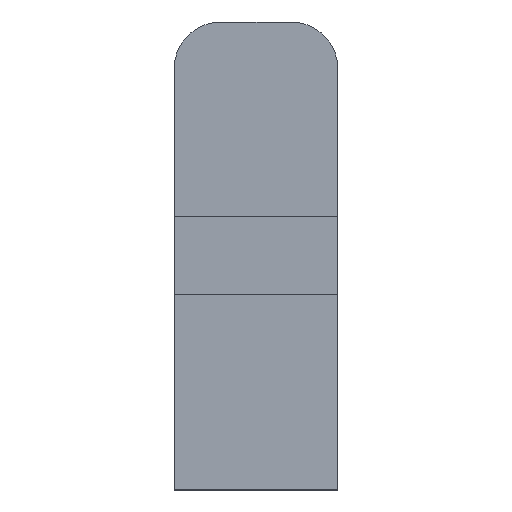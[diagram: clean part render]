
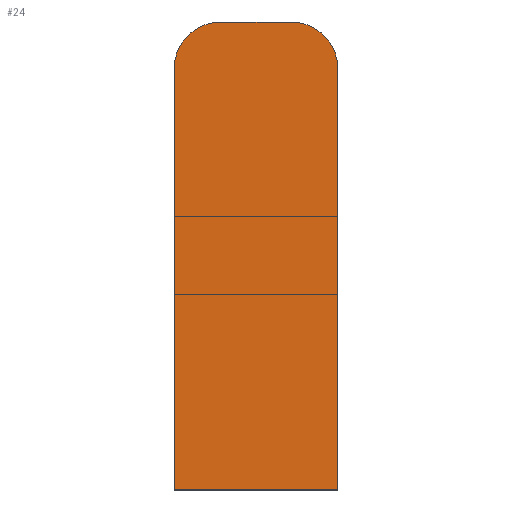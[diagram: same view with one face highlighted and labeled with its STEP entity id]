
A CAD part, front view. The second image highlights one B-rep face of the part: STEP entity #24.
In plain terms, the highlighted planar face has unit normal (0, -1, 0).
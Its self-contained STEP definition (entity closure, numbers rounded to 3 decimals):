
#2 = VERTEX_POINT ( 'NONE', #49 ) ;
#5 = VERTEX_POINT ( 'NONE', #47 ) ;
#8 = VERTEX_POINT ( 'NONE', #10 ) ;
#10 = CARTESIAN_POINT ( 'NONE',  ( 5.25, 0., 10.5 ) ) ;
#24 = ADVANCED_FACE ( 'NONE', ( #356 ), #54, .F. ) ;
#38 = VERTEX_POINT ( 'NONE', #108 ) ;
#41 = VERTEX_POINT ( 'NONE', #112 ) ;
#47 = CARTESIAN_POINT ( 'NONE',  ( 5.25, 0., -16.5 ) ) ;
#49 = CARTESIAN_POINT ( 'NONE',  ( -2.25, 0., 13.5 ) ) ;
#54 = PLANE ( 'NONE',  #244 ) ;
#57 = DIRECTION ( 'NONE',  ( 0., 1., 0. ) ) ;
#58 = DIRECTION ( 'NONE',  ( -1., 0., 0. ) ) ;
#61 = CARTESIAN_POINT ( 'NONE',  ( 0., 0., -1.5 ) ) ;
#65 = VERTEX_POINT ( 'NONE', #117 ) ;
#108 = CARTESIAN_POINT ( 'NONE',  ( 2.25, 0., 13.5 ) ) ;
#112 = CARTESIAN_POINT ( 'NONE',  ( -5.25, 0., -16.5 ) ) ;
#117 = CARTESIAN_POINT ( 'NONE',  ( -5.25, 0., 10.5 ) ) ;
#122 = CARTESIAN_POINT ( 'NONE',  ( 5.25, 0., -16.5 ) ) ;
#124 = DIRECTION ( 'NONE',  ( 1., 0., 0. ) ) ;
#145 = CARTESIAN_POINT ( 'NONE',  ( -2.25, 0., 10.5 ) ) ;
#146 = DIRECTION ( 'NONE',  ( 0., -1., 0. ) ) ;
#147 = DIRECTION ( 'NONE',  ( -1., 0., 0. ) ) ;
#152 = CARTESIAN_POINT ( 'NONE',  ( -5.25, 0., -16.5 ) ) ;
#153 = DIRECTION ( 'NONE',  ( 0., 0., -1. ) ) ;
#162 = CARTESIAN_POINT ( 'NONE',  ( 2.25, 0., 10.5 ) ) ;
#163 = DIRECTION ( 'NONE',  ( 0., -1., 0. ) ) ;
#164 = DIRECTION ( 'NONE',  ( -1., 0., 0. ) ) ;
#169 = CARTESIAN_POINT ( 'NONE',  ( 2.25, 0., 13.5 ) ) ;
#170 = DIRECTION ( 'NONE',  ( -1., 0., 0. ) ) ;
#173 = CARTESIAN_POINT ( 'NONE',  ( 5.25, 0., -16.5 ) ) ;
#174 = DIRECTION ( 'NONE',  ( 0., 0., 1. ) ) ;
#205 = AXIS2_PLACEMENT_3D ( 'NONE', #145, #146, #147 ) ;
#206 = EDGE_CURVE ( 'NONE', #41, #5, #275, .T. ) ;
#219 = AXIS2_PLACEMENT_3D ( 'NONE', #162, #163, #164 ) ;
#228 = EDGE_CURVE ( 'NONE', #2, #65, #376, .T. ) ;
#231 = EDGE_CURVE ( 'NONE', #65, #41, #379, .T. ) ;
#239 = EDGE_CURVE ( 'NONE', #8, #38, #389, .T. ) ;
#242 = EDGE_CURVE ( 'NONE', #38, #2, #392, .T. ) ;
#244 = AXIS2_PLACEMENT_3D ( 'NONE', #61, #57, #58 ) ;
#250 = EDGE_CURVE ( 'NONE', #5, #8, #396, .T. ) ;
#261 = VECTOR ( 'NONE', #124, 1000. ) ;
#275 = LINE ( 'NONE', #122, #261 ) ;
#306 = EDGE_LOOP ( 'NONE', ( #351, #352, #341, #342, #343, #347 ) ) ;
#341 = ORIENTED_EDGE ( 'NONE', *, *, #242, .T. ) ;
#342 = ORIENTED_EDGE ( 'NONE', *, *, #228, .T. ) ;
#343 = ORIENTED_EDGE ( 'NONE', *, *, #231, .T. ) ;
#347 = ORIENTED_EDGE ( 'NONE', *, *, #206, .T. ) ;
#351 = ORIENTED_EDGE ( 'NONE', *, *, #250, .T. ) ;
#352 = ORIENTED_EDGE ( 'NONE', *, *, #239, .T. ) ;
#356 = FACE_OUTER_BOUND ( 'NONE', #306, .T. ) ;
#376 = CIRCLE ( 'NONE', #205, 3. ) ;
#379 = LINE ( 'NONE', #152, #380 ) ;
#380 = VECTOR ( 'NONE', #153, 1000. ) ;
#389 = CIRCLE ( 'NONE', #219, 3. ) ;
#392 = LINE ( 'NONE', #169, #393 ) ;
#393 = VECTOR ( 'NONE', #170, 1000. ) ;
#396 = LINE ( 'NONE', #173, #397 ) ;
#397 = VECTOR ( 'NONE', #174, 1000. ) ;
